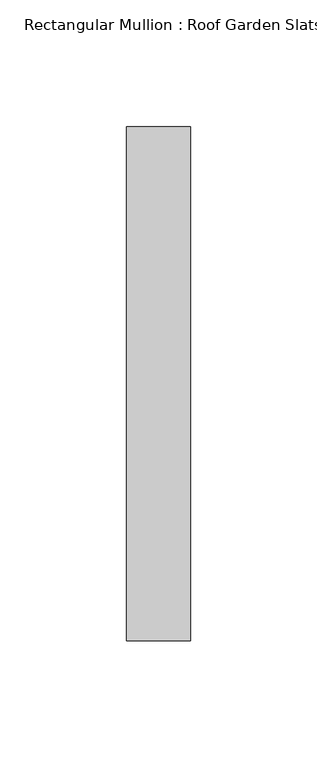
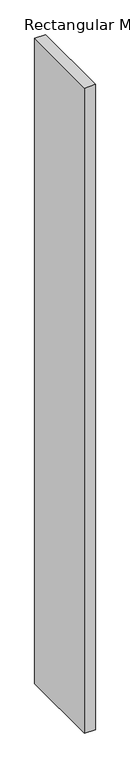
"""IFC4 building model written with IfcOpenShell, lengths in millimetres: member geometry, Rectangular Mullion : Roof Garden Slats."""

from ifc_helpers import new_model, si_unit, frame, origin, place, context, project, spatial, polyline, outline, extrude, source, transform, mapped, element, save


def rectangular_mullion_roof_garden_slats_3826f276(model_context):
    return source(origin(), model_context, "Body", "SweptSolid", [
        extrude(outline(polyline([(12.7, 139.7), (12.7, -63.5), (-12.7, -63.5), (-12.7, 139.7), (12.7, 139.7)])), frame((0.0, 0.0, -1604.9792383), z_axis=(0.0, 0.0, 1.0), x_axis=(1.0, 0.0, 0.0)), (0.0, 0.0, 1.0), 1604.9792383),
    ])


if __name__ == "__main__":
    model = new_model("IFC4")
    model_context = context("Model", 3, world=origin())
    ifc_project = project(units=[si_unit("LENGTHUNIT", "METRE", prefix="MILLI")], contexts=[model_context])
    site = spatial("IfcSite", under=ifc_project)
    building = spatial("IfcBuilding", under=site)
    placement = place(None, origin())
    rectangular_mullion_roof_garden_slats_shape = rectangular_mullion_roof_garden_slats_3826f276(model_context)
    element("IfcMember", 1, ObjectType="Rectangular Mullion : Roof Garden Slats", at=placement, inside=building, context=model_context, shape_type="MappedRepresentation", body=[
        mapped(rectangular_mullion_roof_garden_slats_shape, transform((0.0, 0.0, 0.0), x_axis=(1.0, 0.0, 0.0), y_axis=(0.0, 1.0, 0.0), z_axis=(0.0, 0.0, 1.0))),
    ])
    save(model, "model.ifc")
